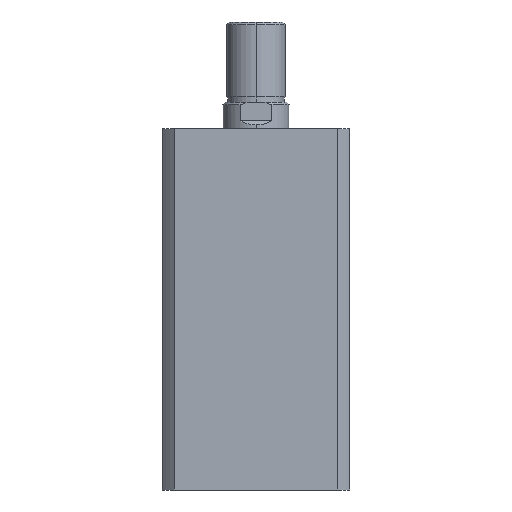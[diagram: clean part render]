
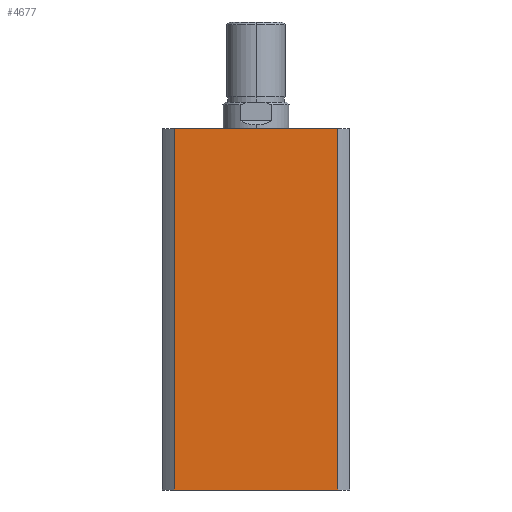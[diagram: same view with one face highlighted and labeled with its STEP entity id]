
A CAD part, left-side view. The second image highlights one B-rep face of the part: STEP entity #4677.
In plain terms, the highlighted planar face has unit normal (-1, 0, 0).
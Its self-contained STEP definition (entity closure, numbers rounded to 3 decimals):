
#262 = DIRECTION ( 'NONE',  ( 0., 0., -1. ) ) ;
#265 = CARTESIAN_POINT ( 'NONE',  ( -35., 30.615, 135. ) ) ;
#266 = CARTESIAN_POINT ( 'NONE',  ( -35., -30.615, 135. ) ) ;
#270 = CARTESIAN_POINT ( 'NONE',  ( -35., 0., 0. ) ) ;
#272 = DIRECTION ( 'NONE',  ( 0., -1., 0. ) ) ;
#273 = DIRECTION ( 'NONE',  ( 0., 0., -1. ) ) ;
#420 = DIRECTION ( 'NONE',  ( 0., -1., 0. ) ) ;
#421 = CARTESIAN_POINT ( 'NONE',  ( -35., 0., 135. ) ) ;
#827 = EDGE_CURVE ( 'NONE', #4887, #4835, #1479, .T. ) ;
#828 = EDGE_CURVE ( 'NONE', #4772, #4835, #1484, .T. ) ;
#829 = EDGE_CURVE ( 'NONE', #4814, #4772, #1483, .T. ) ;
#862 = EDGE_CURVE ( 'NONE', #4814, #4887, #1529, .T. ) ;
#1084 = EDGE_LOOP ( 'NONE', ( #3216, #3217, #3218, #3219 ) ) ;
#1479 = LINE ( 'NONE', #266, #1485 ) ;
#1483 = LINE ( 'NONE', #265, #1489 ) ;
#1484 = LINE ( 'NONE', #270, #1487 ) ;
#1485 = VECTOR ( 'NONE', #262, 1000. ) ;
#1487 = VECTOR ( 'NONE', #272, 1000. ) ;
#1489 = VECTOR ( 'NONE', #273, 1000. ) ;
#1529 = LINE ( 'NONE', #421, #1531 ) ;
#1531 = VECTOR ( 'NONE', #420, 1000. ) ;
#1679 = CARTESIAN_POINT ( 'NONE',  ( -35., 30.615, 0. ) ) ;
#1706 = CARTESIAN_POINT ( 'NONE',  ( -35., 30.615, 135. ) ) ;
#1716 = CARTESIAN_POINT ( 'NONE',  ( -35., -30.615, 0. ) ) ;
#1752 = CARTESIAN_POINT ( 'NONE',  ( -35., -30.615, 135. ) ) ;
#2130 = CARTESIAN_POINT ( 'NONE',  ( -35., 0., 135. ) ) ;
#2138 = PLANE ( 'NONE',  #5053 ) ;
#2140 = DIRECTION ( 'NONE',  ( 1., 0., 0. ) ) ;
#2141 = DIRECTION ( 'NONE',  ( 0., 1., 0. ) ) ;
#3216 = ORIENTED_EDGE ( 'NONE', *, *, #828, .T. ) ;
#3217 = ORIENTED_EDGE ( 'NONE', *, *, #827, .F. ) ;
#3218 = ORIENTED_EDGE ( 'NONE', *, *, #862, .F. ) ;
#3219 = ORIENTED_EDGE ( 'NONE', *, *, #829, .T. ) ;
#4398 = FACE_OUTER_BOUND ( 'NONE', #1084, .T. ) ;
#4677 = ADVANCED_FACE ( 'NONE', ( #4398 ), #2138, .F. ) ;
#4772 = VERTEX_POINT ( 'NONE', #1679 ) ;
#4814 = VERTEX_POINT ( 'NONE', #1706 ) ;
#4835 = VERTEX_POINT ( 'NONE', #1716 ) ;
#4887 = VERTEX_POINT ( 'NONE', #1752 ) ;
#5053 = AXIS2_PLACEMENT_3D ( 'NONE', #2130, #2140, #2141 ) ;
